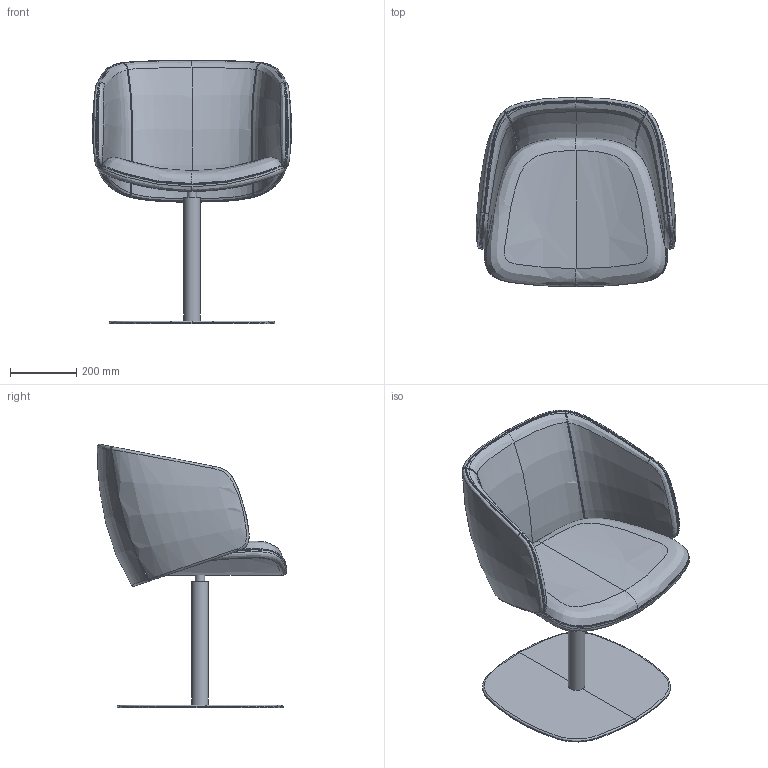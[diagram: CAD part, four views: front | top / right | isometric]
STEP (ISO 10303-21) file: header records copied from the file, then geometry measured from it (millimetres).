
FILE_DESCRIPTION(/* description */ (''),/* implementation_level */ '2;1');
FILE_NAME(/* name */ 'WINX WI 880_02',/* time_stamp */ '2018-09-02T21:15:29+02:00',/* author */ (''),/* organization */ (''),/* preprocessor_version */ 'ST-DEVELOPER v16.5',/* originating_system */ '',/* authorisation */ '');
FILE_SCHEMA (('AUTOMOTIVE_DESIGN'));
Length unit declared in the file: millimetre
Products named in the file (1): Document
Bounding box: 600.84 x 570.29 x 792.92 mm (x, y, z)
Volume: 1749457.7 mm3; surface area: 1879428.5 mm2
Topology: 1 solids, 11 shells, 119 faces, 261 edges, 156 vertices
Faces by surface type: bspline 106, plane 13
Entity records: 26910 total; most frequent: CARTESIAN_POINT 25297, ORIENTED_EDGE 453, EDGE_CURVE 258, B_SPLINE_CURVE_WITH_KNOTS 200, VERTEX_POINT 150, ADVANCED_FACE 119, FACE_OUTER_BOUND 119, EDGE_LOOP 119
